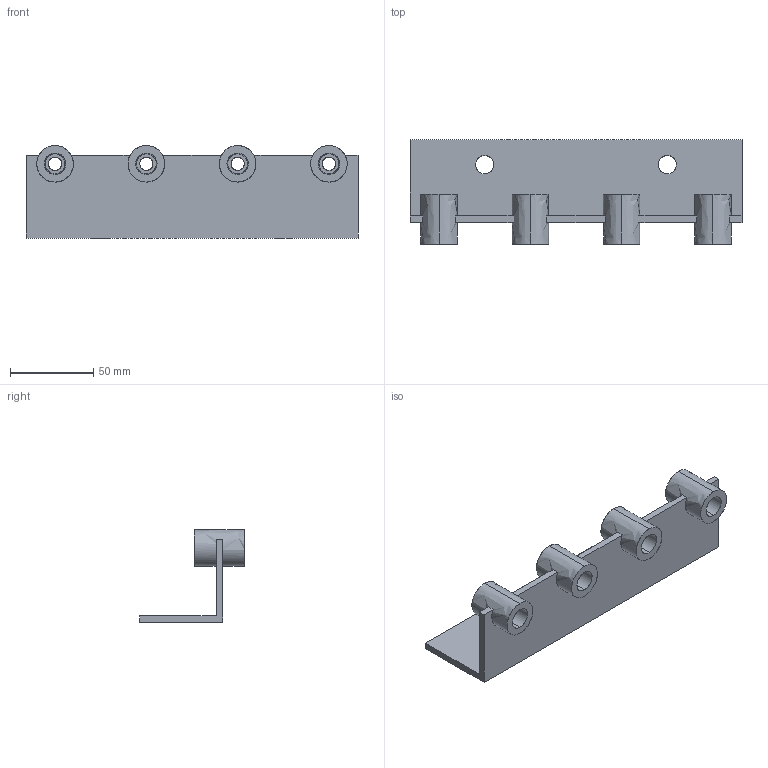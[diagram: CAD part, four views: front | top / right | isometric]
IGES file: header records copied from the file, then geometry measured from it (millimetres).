
Global section: file name: E:\UnigraphicsGraphicData\MISUMI_PRESS-PARTS\IGES\3d_tahk-d-2_01850_r00.igs; native system: NX V5.0; preprocessor: UGS NX IGES V5.0; author: MISUMI; date: 20110105.163349; units: millimetre
Bounding box: 200 x 63 x 56 mm (x, y, z)
Surface area: 52084.2 mm2 (no closed solid volume)
Topology: 0 solids, 0 shells, 68 faces, 560 edges, 560 vertices
Faces by surface type: bspline 68
